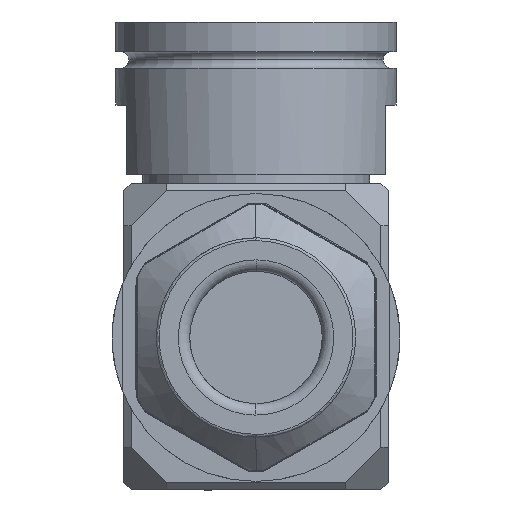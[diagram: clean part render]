
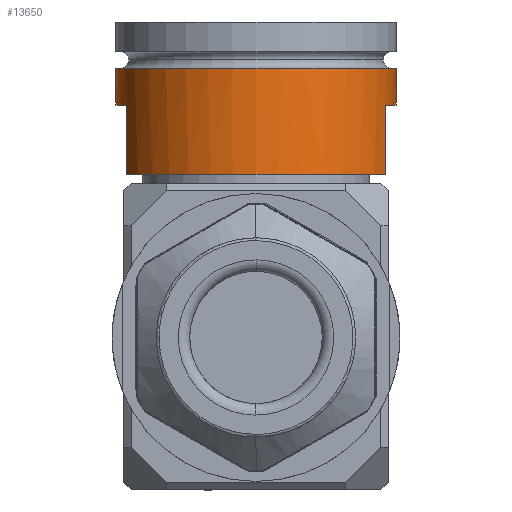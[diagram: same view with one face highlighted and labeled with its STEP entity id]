
A CAD part, front view. The second image highlights one B-rep face of the part: STEP entity #13650.
In plain terms, the highlighted cylindrical face has radius 19.291 mm (diameter 38.583 mm), a partial arc.
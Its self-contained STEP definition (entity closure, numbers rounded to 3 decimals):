
#8 = DIRECTION ( 'NONE',  ( 1., 0., 0. ) ) ;
#256 = CARTESIAN_POINT ( 'NONE',  ( 17.78, -7.485, -2.972 ) ) ;
#1204 = AXIS2_PLACEMENT_3D ( 'NONE', #53219, #7350, #59210 ) ;
#1486 = CARTESIAN_POINT ( 'NONE',  ( 0., 0., 2.108 ) ) ;
#2763 = CARTESIAN_POINT ( 'NONE',  ( 17.78, -7.485, -12.497 ) ) ;
#5531 = LINE ( 'NONE', #36370, #60470 ) ;
#6617 = CARTESIAN_POINT ( 'NONE',  ( -19.291, 0., 8.458 ) ) ;
#7350 = DIRECTION ( 'NONE',  ( 0., 0., -1. ) ) ;
#7930 = CIRCLE ( 'NONE', #65665, 19.291 ) ;
#8601 = EDGE_CURVE ( 'NONE', #63182, #56483, #7930, .T. ) ;
#9814 = CARTESIAN_POINT ( 'NONE',  ( 19.291, 0., -2.972 ) ) ;
#10615 = DIRECTION ( 'NONE',  ( 1., 0., 0. ) ) ;
#10942 = FACE_OUTER_BOUND ( 'NONE', #14107, .T. ) ;
#11597 = CARTESIAN_POINT ( 'NONE',  ( 0., 0., 8.458 ) ) ;
#12388 = CARTESIAN_POINT ( 'NONE',  ( -19.291, 0., 2.108 ) ) ;
#13650 = ADVANCED_FACE ( 'NONE', ( #10942 ), #31422, .T. ) ;
#14107 = EDGE_LOOP ( 'NONE', ( #44122, #52228, #44953, #63198, #34678, #36127, #28354, #65924 ) ) ;
#16565 = AXIS2_PLACEMENT_3D ( 'NONE', #51251, #35567, #8 ) ;
#17238 = DIRECTION ( 'NONE',  ( 0., 0., -1. ) ) ;
#17358 = LINE ( 'NONE', #29102, #64965 ) ;
#18565 = VERTEX_POINT ( 'NONE', #2763 ) ;
#18670 = CARTESIAN_POINT ( 'NONE',  ( 17.78, -7.485, -2.972 ) ) ;
#19166 = DIRECTION ( 'NONE',  ( 0., 0., -1. ) ) ;
#23804 = VERTEX_POINT ( 'NONE', #48981 ) ;
#26708 = DIRECTION ( 'NONE',  ( 0., 0., -1. ) ) ;
#26760 = EDGE_CURVE ( 'NONE', #23804, #51351, #5531, .T. ) ;
#27521 = EDGE_CURVE ( 'NONE', #56483, #18565, #55179, .T. ) ;
#28263 = EDGE_CURVE ( 'NONE', #18565, #51351, #40086, .T. ) ;
#28354 = ORIENTED_EDGE ( 'NONE', *, *, #8601, .F. ) ;
#29102 = CARTESIAN_POINT ( 'NONE',  ( 19.291, 0., 8.458 ) ) ;
#29835 = VERTEX_POINT ( 'NONE', #63287 ) ;
#31361 = DIRECTION ( 'NONE',  ( 0., 0., -1. ) ) ;
#31422 = CYLINDRICAL_SURFACE ( 'NONE', #61470, 19.291 ) ;
#32814 = EDGE_CURVE ( 'NONE', #29835, #63182, #17358, .T. ) ;
#34000 = CARTESIAN_POINT ( 'NONE',  ( -17.78, -7.485, -12.497 ) ) ;
#34486 = DIRECTION ( 'NONE',  ( 0., 0., -1. ) ) ;
#34678 = ORIENTED_EDGE ( 'NONE', *, *, #28263, .F. ) ;
#35350 = CIRCLE ( 'NONE', #1204, 19.291 ) ;
#35567 = DIRECTION ( 'NONE',  ( 0., 0., -1. ) ) ;
#35619 = EDGE_CURVE ( 'NONE', #29835, #58733, #58684, .T. ) ;
#36127 = ORIENTED_EDGE ( 'NONE', *, *, #27521, .F. ) ;
#36370 = CARTESIAN_POINT ( 'NONE',  ( -17.78, -7.485, -2.972 ) ) ;
#36373 = CARTESIAN_POINT ( 'NONE',  ( -19.291, 0., -2.972 ) ) ;
#37809 = DIRECTION ( 'NONE',  ( 0., 0., -1. ) ) ;
#40086 = CIRCLE ( 'NONE', #16565, 19.291 ) ;
#40097 = EDGE_CURVE ( 'NONE', #58733, #48405, #42777, .T. ) ;
#42777 = LINE ( 'NONE', #6617, #54609 ) ;
#44122 = ORIENTED_EDGE ( 'NONE', *, *, #35619, .T. ) ;
#44941 = CARTESIAN_POINT ( 'NONE',  ( 0., 0., -2.972 ) ) ;
#44953 = ORIENTED_EDGE ( 'NONE', *, *, #58739, .F. ) ;
#46828 = DIRECTION ( 'NONE',  ( 0., 0., -1. ) ) ;
#48036 = DIRECTION ( 'NONE',  ( 1., 0., 0. ) ) ;
#48405 = VERTEX_POINT ( 'NONE', #36373 ) ;
#48981 = CARTESIAN_POINT ( 'NONE',  ( -17.78, -7.485, -2.972 ) ) ;
#50295 = DIRECTION ( 'NONE',  ( 1., 0., 0. ) ) ;
#51251 = CARTESIAN_POINT ( 'NONE',  ( 0., 0., -12.497 ) ) ;
#51256 = AXIS2_PLACEMENT_3D ( 'NONE', #1486, #17238, #48036 ) ;
#51351 = VERTEX_POINT ( 'NONE', #34000 ) ;
#52228 = ORIENTED_EDGE ( 'NONE', *, *, #40097, .T. ) ;
#53219 = CARTESIAN_POINT ( 'NONE',  ( 0., 0., -2.972 ) ) ;
#54609 = VECTOR ( 'NONE', #46828, 1000. ) ;
#55179 = LINE ( 'NONE', #256, #64785 ) ;
#56483 = VERTEX_POINT ( 'NONE', #18670 ) ;
#58684 = CIRCLE ( 'NONE', #51256, 19.291 ) ;
#58733 = VERTEX_POINT ( 'NONE', #12388 ) ;
#58739 = EDGE_CURVE ( 'NONE', #23804, #48405, #35350, .T. ) ;
#59210 = DIRECTION ( 'NONE',  ( -1., 0., 0. ) ) ;
#60470 = VECTOR ( 'NONE', #31361, 1000. ) ;
#61470 = AXIS2_PLACEMENT_3D ( 'NONE', #11597, #26708, #10615 ) ;
#63182 = VERTEX_POINT ( 'NONE', #9814 ) ;
#63198 = ORIENTED_EDGE ( 'NONE', *, *, #26760, .T. ) ;
#63287 = CARTESIAN_POINT ( 'NONE',  ( 19.291, 0., 2.108 ) ) ;
#64785 = VECTOR ( 'NONE', #34486, 1000. ) ;
#64965 = VECTOR ( 'NONE', #37809, 1000. ) ;
#65665 = AXIS2_PLACEMENT_3D ( 'NONE', #44941, #19166, #50295 ) ;
#65924 = ORIENTED_EDGE ( 'NONE', *, *, #32814, .F. ) ;
